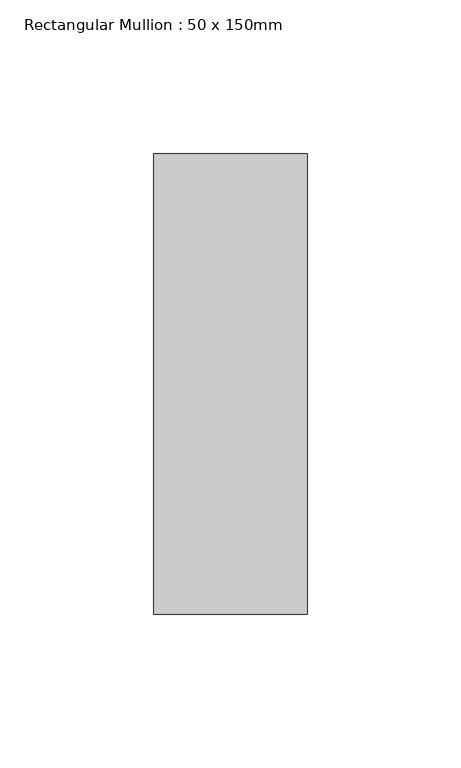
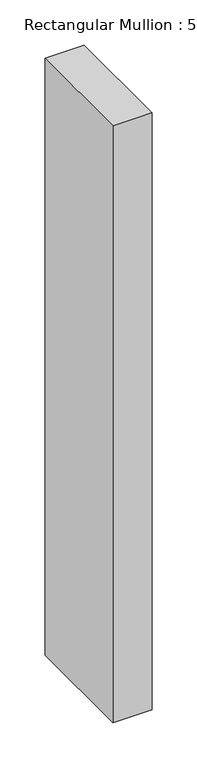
"""IFC4 building model written with IfcOpenShell, lengths in millimetres: member geometry, Rectangular Mullion : 50 x 150mm."""

import ifcopenshell
import ifcopenshell.guid

model = None  # the IFC model being written
_history = None  # IfcOwnerHistory: only IFC2X3 demands one
_inside = {}  # id of a spatial element -> (the spatial element, [elements in it])
_under = {}  # id of a project, library or spatial element -> (it, [spatial elements below it])
_declared = {}  # id of a project -> (the project, [libraries it declares])
_typed = {}  # id of a type object -> (the type object, [elements of that type])
_made_of = {}  # id of a material, layer set ... -> (it, [elements and type objects made of it])


def new_model(schema):
    """Start an empty IFC model of exactly this schema.

    Asked for "IFC4X3", IfcOpenShell would pick the latest addendum, in which some entities
    have other attributes; the version numbers below select the first issue.
    IFC2X3 requires an IfcOwnerHistory on every rooted entity: one is made here for all.
    """
    global model, _history
    if schema == "IFC4X3":
        model = ifcopenshell.file(schema_version=(4, 3, 0, 0))
    else:
        model = ifcopenshell.file(schema=schema)
    _inside.clear()
    _under.clear()
    _declared.clear()
    _typed.clear()
    _made_of.clear()
    _history = None
    if model.schema == "IFC2X3":
        org = make("IfcOrganization", Name="unknown")
        user = make(
            "IfcPersonAndOrganization",
            ThePerson=make("IfcPerson", FamilyName="unknown"),
            TheOrganization=org,
        )
        app = make(
            "IfcApplication",
            ApplicationDeveloper=org,
            Version="unknown",
            ApplicationFullName="unknown",
            ApplicationIdentifier="unknown",
        )
        _history = make(
            "IfcOwnerHistory",
            OwningUser=user,
            OwningApplication=app,
            ChangeAction="ADDED",
            CreationDate=0,
        )
    return model


def make(cls, **values):
    """One entity of the class cls with the attributes given. An attribute that is None is left unset."""
    return model.create_entity(
        cls, **{name: value for name, value in values.items() if value is not None}
    )


def rooted(cls, **values):
    """An entity with a GlobalId (a new one), such as an element, a storey or a relation."""
    return make(cls, GlobalId=ifcopenshell.guid.new(), OwnerHistory=_history, **values)


def si_unit(unit_type, name, prefix=None):
    """IfcSIUnit, for example si_unit("LENGTHUNIT", "METRE", prefix="MILLI")."""
    return make("IfcSIUnit", UnitType=unit_type, Prefix=prefix, Name=name)


def assignment(units):
    """IfcUnitAssignment: the units of a project."""
    return None if units is None else make("IfcUnitAssignment", Units=units)


def point(xyz):
    """IfcCartesianPoint."""
    return None if xyz is None else make("IfcCartesianPoint", Coordinates=xyz)


def direction(xyz):
    """IfcDirection."""
    return None if xyz is None else make("IfcDirection", DirectionRatios=xyz)


def frame(location, z_axis=None, x_axis=None):
    """IfcAxis2Placement3D, a coordinate frame: its origin and axes. An axis left out is left unset."""
    return make(
        "IfcAxis2Placement3D",
        Location=point(location),
        Axis=direction(z_axis),
        RefDirection=direction(x_axis),
    )


def origin():
    """The frame at (0, 0, 0) with its axes left unset."""
    return frame((0.0, 0.0, 0.0))


def place(relative_to, where):
    """IfcLocalPlacement: puts the frame where relative to a parent placement (None: the world)."""
    return make(
        "IfcLocalPlacement", PlacementRelTo=relative_to, RelativePlacement=where
    )


def context(
    kind, dimensions, precision=None, world=None, true_north=None, identifier=None
):
    """IfcGeometricRepresentationContext, for example the 3D "Model" context."""
    return make(
        "IfcGeometricRepresentationContext",
        ContextIdentifier=identifier,
        ContextType=kind,
        CoordinateSpaceDimension=dimensions,
        Precision=precision,
        WorldCoordinateSystem=world,
        TrueNorth=true_north,
    )


def project(units=None, contexts=None):
    """IfcProject with its units and contexts."""
    return rooted(
        "IfcProject",
        Name="project",
        RepresentationContexts=contexts,
        UnitsInContext=assignment(units),
    )


def spatial(cls, under=None, at=None, **own):
    """A site, building, storey or space (cls), placed at a placement, below another one or the project."""
    s = rooted(cls, ObjectPlacement=at, **own)
    if under is not None:
        _under.setdefault(under.id(), (under, []))[1].append(s)
    return s


def polyline(points):
    """IfcPolyline through the points."""
    return make("IfcPolyline", Points=[point(p) for p in points])


def outline(outer, holes=None, kind="AREA"):
    """IfcArbitraryClosedProfileDef: a profile drawn as a closed curve; with holes, ...WithVoids."""
    if holes is None:
        return make("IfcArbitraryClosedProfileDef", ProfileType=kind, OuterCurve=outer)
    return make(
        "IfcArbitraryProfileDefWithVoids",
        ProfileType=kind,
        OuterCurve=outer,
        InnerCurves=holes,
    )


def extrude(swept, where, along, depth):
    """IfcExtrudedAreaSolid: the profile swept, set in the frame where, extruded along a direction by depth."""
    return make(
        "IfcExtrudedAreaSolid",
        SweptArea=swept,
        Position=where,
        ExtrudedDirection=direction(along),
        Depth=depth,
    )


def shape(context_of_items, identifier, shape_type, items):
    """IfcShapeRepresentation: the items that make up one representation, for example the "Body"."""
    return make(
        "IfcShapeRepresentation",
        ContextOfItems=context_of_items,
        RepresentationIdentifier=identifier,
        RepresentationType=shape_type,
        Items=items,
    )


def source(mapping_origin, context_of_items, identifier, shape_type, items):
    """IfcRepresentationMap: a shape defined once, which mapped items show again and again."""
    return make(
        "IfcRepresentationMap",
        MappingOrigin=mapping_origin,
        MappedRepresentation=shape(context_of_items, identifier, shape_type, items),
    )


def transform(
    local_origin,
    x_axis=None,
    y_axis=None,
    z_axis=None,
    scale=None,
    scale2=None,
    scale3=None,
    uniform=True,
):
    """IfcCartesianTransformationOperator3D, or its non-uniform kind. x_axis, y_axis, z_axis: its Axis1, 2, 3."""
    if uniform:
        return make(
            "IfcCartesianTransformationOperator3D",
            Axis1=direction(x_axis),
            Axis2=direction(y_axis),
            LocalOrigin=point(local_origin),
            Scale=scale,
            Axis3=direction(z_axis),
        )
    return make(
        "IfcCartesianTransformationOperator3DnonUniform",
        Axis1=direction(x_axis),
        Axis2=direction(y_axis),
        LocalOrigin=point(local_origin),
        Scale=scale,
        Axis3=direction(z_axis),
        Scale2=scale2,
        Scale3=scale3,
    )


def mapped(mapping_source, mapping_target):
    """IfcMappedItem: shows the shape of a source again, moved by a transform."""
    return make(
        "IfcMappedItem", MappingSource=mapping_source, MappingTarget=mapping_target
    )


def made_of(thing, what):
    """Note that an element or type object is made of a material, layer set ...; save() writes the relation."""
    if what is not None:
        _made_of.setdefault(what.id(), (what, []))[1].append(thing)
    return thing


def element(
    cls,
    number,
    at=None,
    inside=None,
    cuts=None,
    type_object=None,
    material=None,
    context=None,
    identifier="Body",
    shape_type=None,
    held_by="IfcProductDefinitionShape",
    body=None,
    shapes=None,
    **own,
):
    """One element of the class cls, such as IfcWall. Its Tag is "e" and its number.

    at: its placement. inside: the storey or other place that contains it. cuts: it is an
    opening in that element (IfcRelVoidsElement). A single representation is given by context,
    identifier, shape_type and body (its items); several are given by shapes. held_by: the class
    of the entity that holds the representations. save() writes the other relations.
    """
    e = rooted(cls, Tag="e%d" % number, ObjectPlacement=at, **own)
    if body is not None:
        shapes = [shape(context, identifier, shape_type, body)]
    if shapes is not None:
        e.Representation = make(held_by, Representations=shapes)
    if inside is not None:
        _inside.setdefault(inside.id(), (inside, []))[1].append(e)
    if cuts is not None:
        rooted(
            "IfcRelVoidsElement", RelatingBuildingElement=cuts, RelatedOpeningElement=e
        )
    if type_object is not None:
        _typed.setdefault(type_object.id(), (type_object, []))[1].append(e)
    return made_of(e, material)


def aggregate(whole, parts):
    """IfcRelAggregates: a whole, such as a stair, and the parts it consists of."""
    return rooted("IfcRelAggregates", RelatingObject=whole, RelatedObjects=parts)


def save(model, path):
    """Write the relations noted so far, then the file.

    IfcRelAggregates (storeys below a building ...), IfcRelContainedInSpatialStructure (elements
    in a storey), IfcRelDefinesByType, IfcRelAssociatesMaterial and IfcRelDeclares: one each for
    every whole, place, type object, material and project.
    """
    for whole, parts in _under.values():
        aggregate(whole, parts)
    for where, things in _inside.values():
        rooted(
            "IfcRelContainedInSpatialStructure",
            RelatedElements=things,
            RelatingStructure=where,
        )
    for kind, things in _typed.values():
        rooted("IfcRelDefinesByType", RelatedObjects=things, RelatingType=kind)
    for what, things in _made_of.values():
        rooted("IfcRelAssociatesMaterial", RelatedObjects=things, RelatingMaterial=what)
    for by, libraries in _declared.values():
        rooted("IfcRelDeclares", RelatingContext=by, RelatedDefinitions=libraries)
    model.write(path)


def rectangular_mullion_50_x_150mm_82e1d492(model_context):
    return source(origin(), model_context, "Body", "SweptSolid", [
        extrude(outline(polyline([(0.0, 75.0), (0.0, -75.0), (-50.0, -75.0), (-50.0, 75.0), (0.0, 75.0)])), frame((0.0, 0.0, -806.3798397), z_axis=(0.0, 0.0, 1.0), x_axis=(1.0, 0.0, 0.0)), (0.0, 0.0, 1.0), 806.3798397),
    ])


if __name__ == "__main__":
    model = new_model("IFC4")
    model_context = context("Model", 3, world=origin())
    ifc_project = project(units=[si_unit("LENGTHUNIT", "METRE", prefix="MILLI")], contexts=[model_context])
    site = spatial("IfcSite", under=ifc_project)
    building = spatial("IfcBuilding", under=site)
    placement = place(None, origin())
    rectangular_mullion_50_x_150mm_shape = rectangular_mullion_50_x_150mm_82e1d492(model_context)
    element("IfcMember", 1, ObjectType="Rectangular Mullion : 50 x 150mm", at=placement, inside=building, context=model_context, shape_type="MappedRepresentation", body=[
        mapped(rectangular_mullion_50_x_150mm_shape, transform((0.0, 0.0, 0.0), x_axis=(1.0, 0.0, 0.0), y_axis=(0.0, 1.0, 0.0), z_axis=(0.0, 0.0, 1.0))),
    ])
    save(model, "model.ifc")
